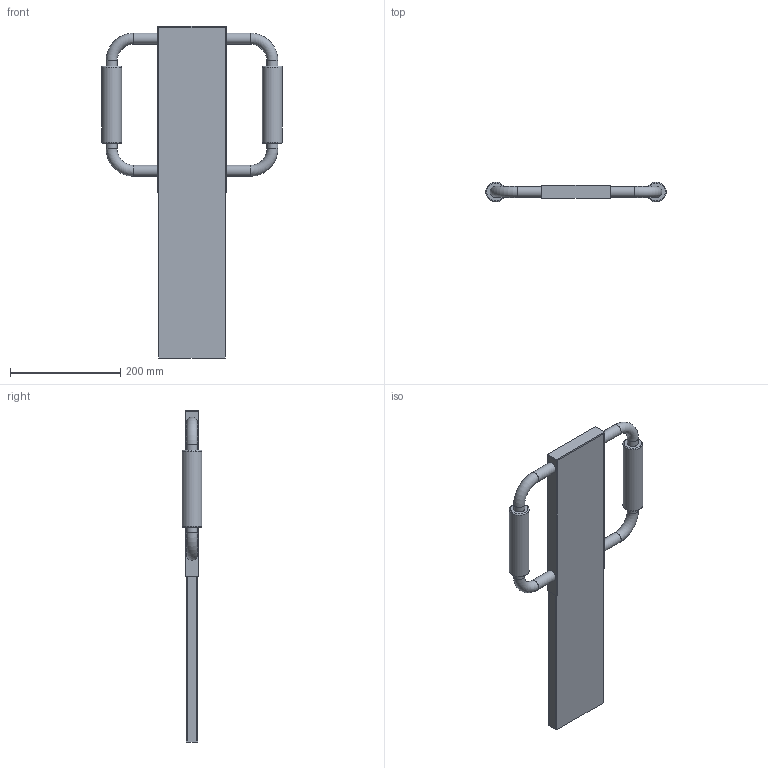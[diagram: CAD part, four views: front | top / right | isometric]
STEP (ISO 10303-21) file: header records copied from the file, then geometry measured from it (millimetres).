
FILE_DESCRIPTION(('FreeCAD Model'),'2;1');
FILE_NAME('model.step','2026-09-20T21:29:47Z',('MIR GROUP'),('MIR GROUP' ),'Open CASCADE STEP processor 7.8','Traffic Industries EN1','');
FILE_SCHEMA(('AUTOMOTIVE_DESIGN { 1 0 10303 214 1 1 1 1 }'));
Length unit declared in the file: millimetre
Products named in the file (1): TI-MD-SM1
Bounding box: 328 x 36 x 603 mm (x, y, z)
Volume: 645310.7 mm3; surface area: 511972.7 mm2
Topology: 11 solids, 11 shells, 78 faces, 148 edges, 92 vertices
Faces by surface type: plane 50, cylinder 16, torus 12
Full cylindrical faces by diameter (mm): 16 x6, 20 x8, 36 x2
Entity records: 2015 total; most frequent: DIRECTION 354, CARTESIAN_POINT 319, ORIENTED_EDGE 296, EDGE_CURVE 148, AXIS2_PLACEMENT_3D 127, LINE 100, VECTOR 100, VERTEX_POINT 92
